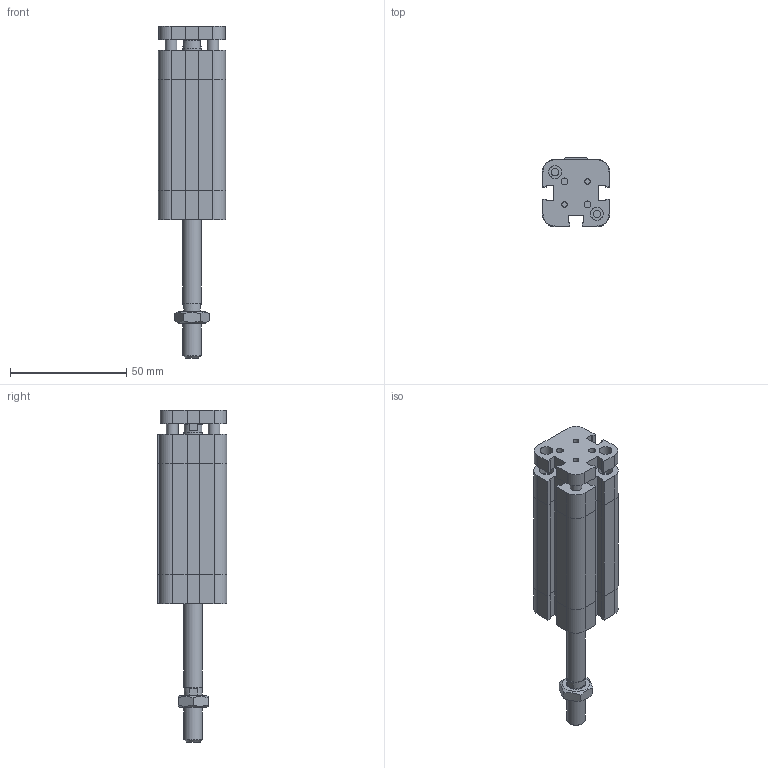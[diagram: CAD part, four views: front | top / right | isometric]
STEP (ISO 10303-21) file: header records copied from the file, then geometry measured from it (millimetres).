
FILE_DESCRIPTION((''),'2;1');
FILE_NAME('I:\Area Tecnica\Disegni\VARIE-3D\Componenti\EUROPE\15##_###_####_09_#\1581_16_0035_09_1.iam.stp','2009-04-20T15:42:45',(''),(''),'Autodesk Inventor 2009','Autodesk Inventor 2009','');
FILE_SCHEMA(('AUTOMOTIVE_DESIGN { 1 0 10303 214 1 1 1 1 }'));
Length unit declared in the file: millimetre
Products named in the file (4): 1581_16_0035_09_1; 1581_16_0035_08_1_C; 1561_16_0035_09_1_SA; DBM8
Assembly tree (3 placements, depth 2):
  1581_16_0035_09_1
    1581_16_0035_08_1_C
    1561_16_0035_09_1_SA
    DBM8
Bounding box: 29 x 30 x 143 mm (x, y, z)
Volume: 60883.8 mm3; surface area: 24189 mm2
Topology: 3 solids, 3 shells, 223 faces, 523 edges, 326 vertices
Faces by surface type: plane 144, bspline 46, cylinder 23, cone 10
Full cylindrical faces by diameter (mm): 5 x2, 6.5 x1, 7.8 x2, 8 x2
Entity records: 6544 total; most frequent: CARTESIAN_POINT 1548, ORIENTED_EDGE 934, DIRECTION 916, EDGE_CURVE 467, VECTOR 346, LINE 346, VERTEX_POINT 309, EDGE_LOOP 298
